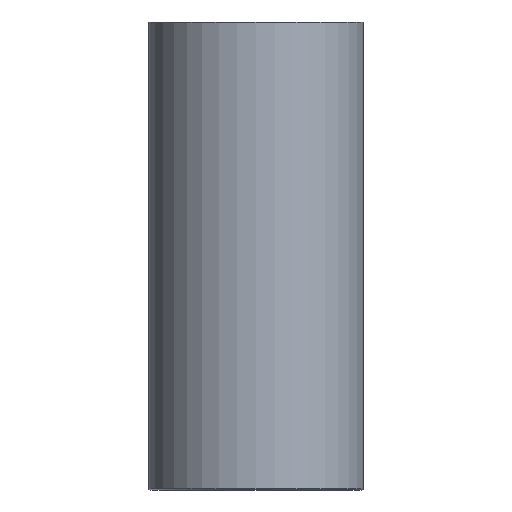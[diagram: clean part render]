
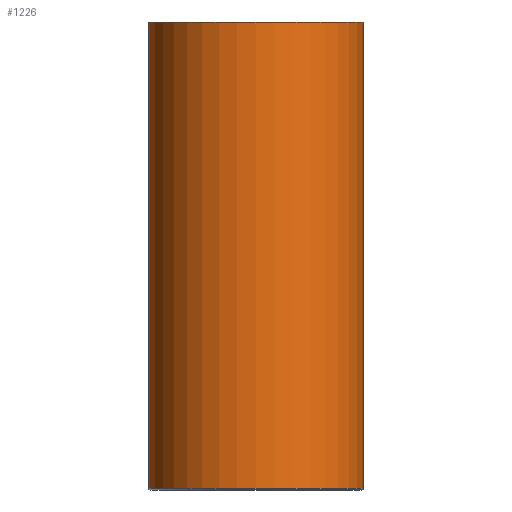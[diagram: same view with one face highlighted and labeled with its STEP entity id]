
A CAD part, front view. The second image highlights one B-rep face of the part: STEP entity #1226.
In plain terms, the highlighted cylindrical face has radius 88.9 mm (diameter 177.8 mm), a full revolution.
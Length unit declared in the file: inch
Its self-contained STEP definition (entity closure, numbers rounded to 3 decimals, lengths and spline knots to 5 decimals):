
#1226 = ADVANCED_FACE ( 'NONE', ( #7996, #7989 ), #7966, .T. ) ;
#1895 = EDGE_CURVE ( 'NONE', #7032, #7032, #7201, .T. ) ;
#2293 = EDGE_CURVE ( 'NONE', #6914, #6914, #11587, .T. ) ;
#4436 = ORIENTED_EDGE ( 'NONE', *, *, #2293, .T. ) ;
#4502 = ORIENTED_EDGE ( 'NONE', *, *, #1895, .T. ) ;
#6914 = VERTEX_POINT ( 'NONE', #15691 ) ;
#7032 = VERTEX_POINT ( 'NONE', #15751 ) ;
#7201 = CIRCLE ( 'NONE', #17078, 3.5 ) ;
#7966 = CYLINDRICAL_SURFACE ( 'NONE', #17287, 3.5 ) ;
#7989 = FACE_OUTER_BOUND ( 'NONE', #12243, .T. ) ;
#7996 = FACE_OUTER_BOUND ( 'NONE', #12244, .T. ) ;
#11587 = CIRCLE ( 'NONE', #16462, 3.5 ) ;
#12243 = EDGE_LOOP ( 'NONE', ( #4436 ) ) ;
#12244 = EDGE_LOOP ( 'NONE', ( #4502 ) ) ;
#15691 = CARTESIAN_POINT ( 'NONE',  ( -3.5, 0., 7.618 ) ) ;
#15751 = CARTESIAN_POINT ( 'NONE',  ( -3.5, 0., -7.5555 ) ) ;
#16462 = AXIS2_PLACEMENT_3D ( 'NONE', #20782, #20781, #20780 ) ;
#17078 = AXIS2_PLACEMENT_3D ( 'NONE', #18274, #18273, #18272 ) ;
#17287 = AXIS2_PLACEMENT_3D ( 'NONE', #19364, #19363, #19354 ) ;
#18272 = DIRECTION ( 'NONE',  ( -1., 0., 0. ) ) ;
#18273 = DIRECTION ( 'NONE',  ( 0., 0., 1. ) ) ;
#18274 = CARTESIAN_POINT ( 'NONE',  ( 0., 0., -7.5555 ) ) ;
#19354 = DIRECTION ( 'NONE',  ( -1., 0., 0. ) ) ;
#19363 = DIRECTION ( 'NONE',  ( 0., 0., -1. ) ) ;
#19364 = CARTESIAN_POINT ( 'NONE',  ( 0., 0., -13.585 ) ) ;
#20780 = DIRECTION ( 'NONE',  ( -1., 0., 0. ) ) ;
#20781 = DIRECTION ( 'NONE',  ( 0., 0., -1. ) ) ;
#20782 = CARTESIAN_POINT ( 'NONE',  ( 0., 0., 7.618 ) ) ;
